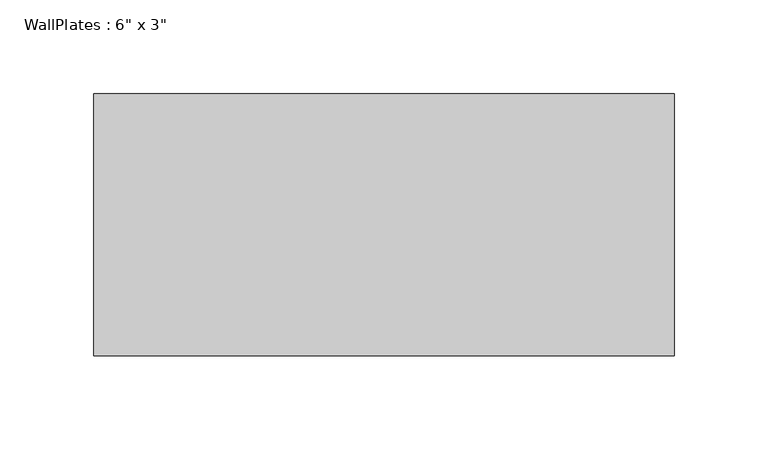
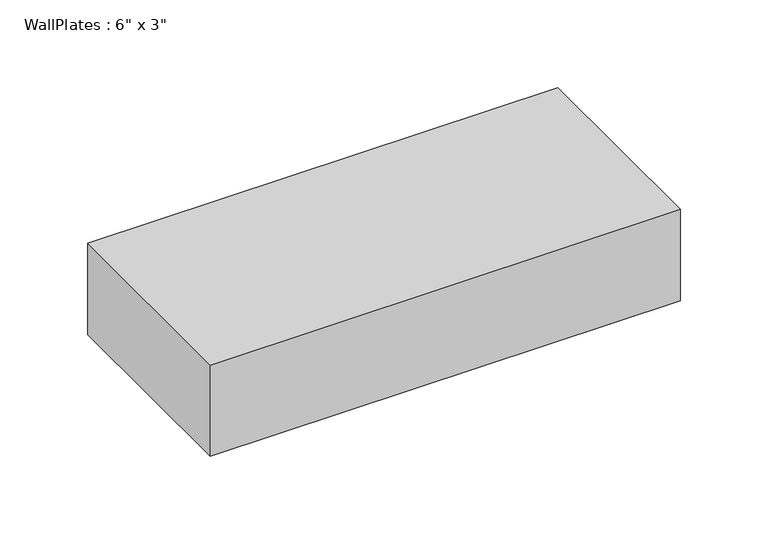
"""IFC4 building model written with IfcOpenShell, lengths in millimetres: beam geometry."""

import ifcopenshell
import ifcopenshell.guid

model = None  # the IFC model being written
_history = None  # IfcOwnerHistory: only IFC2X3 demands one
_inside = {}  # id of a spatial element -> (the spatial element, [elements in it])
_under = {}  # id of a project, library or spatial element -> (it, [spatial elements below it])
_declared = {}  # id of a project -> (the project, [libraries it declares])
_typed = {}  # id of a type object -> (the type object, [elements of that type])
_made_of = {}  # id of a material, layer set ... -> (it, [elements and type objects made of it])


def new_model(schema):
    """Start an empty IFC model of exactly this schema.

    Asked for "IFC4X3", IfcOpenShell would pick the latest addendum, in which some entities
    have other attributes; the version numbers below select the first issue.
    IFC2X3 requires an IfcOwnerHistory on every rooted entity: one is made here for all.
    """
    global model, _history
    if schema == "IFC4X3":
        model = ifcopenshell.file(schema_version=(4, 3, 0, 0))
    else:
        model = ifcopenshell.file(schema=schema)
    _inside.clear()
    _under.clear()
    _declared.clear()
    _typed.clear()
    _made_of.clear()
    _history = None
    if model.schema == "IFC2X3":
        org = make("IfcOrganization", Name="unknown")
        user = make(
            "IfcPersonAndOrganization",
            ThePerson=make("IfcPerson", FamilyName="unknown"),
            TheOrganization=org,
        )
        app = make(
            "IfcApplication",
            ApplicationDeveloper=org,
            Version="unknown",
            ApplicationFullName="unknown",
            ApplicationIdentifier="unknown",
        )
        _history = make(
            "IfcOwnerHistory",
            OwningUser=user,
            OwningApplication=app,
            ChangeAction="ADDED",
            CreationDate=0,
        )
    return model


def make(cls, **values):
    """One entity of the class cls with the attributes given. An attribute that is None is left unset."""
    return model.create_entity(
        cls, **{name: value for name, value in values.items() if value is not None}
    )


def rooted(cls, **values):
    """An entity with a GlobalId (a new one), such as an element, a storey or a relation."""
    return make(cls, GlobalId=ifcopenshell.guid.new(), OwnerHistory=_history, **values)


def si_unit(unit_type, name, prefix=None):
    """IfcSIUnit, for example si_unit("LENGTHUNIT", "METRE", prefix="MILLI")."""
    return make("IfcSIUnit", UnitType=unit_type, Prefix=prefix, Name=name)


def assignment(units):
    """IfcUnitAssignment: the units of a project."""
    return None if units is None else make("IfcUnitAssignment", Units=units)


def point(xyz):
    """IfcCartesianPoint."""
    return None if xyz is None else make("IfcCartesianPoint", Coordinates=xyz)


def direction(xyz):
    """IfcDirection."""
    return None if xyz is None else make("IfcDirection", DirectionRatios=xyz)


def frame(location, z_axis=None, x_axis=None):
    """IfcAxis2Placement3D, a coordinate frame: its origin and axes. An axis left out is left unset."""
    return make(
        "IfcAxis2Placement3D",
        Location=point(location),
        Axis=direction(z_axis),
        RefDirection=direction(x_axis),
    )


def origin():
    """The frame at (0, 0, 0) with its axes left unset."""
    return frame((0.0, 0.0, 0.0))


def place(relative_to, where):
    """IfcLocalPlacement: puts the frame where relative to a parent placement (None: the world)."""
    return make(
        "IfcLocalPlacement", PlacementRelTo=relative_to, RelativePlacement=where
    )


def context(
    kind, dimensions, precision=None, world=None, true_north=None, identifier=None
):
    """IfcGeometricRepresentationContext, for example the 3D "Model" context."""
    return make(
        "IfcGeometricRepresentationContext",
        ContextIdentifier=identifier,
        ContextType=kind,
        CoordinateSpaceDimension=dimensions,
        Precision=precision,
        WorldCoordinateSystem=world,
        TrueNorth=true_north,
    )


def project(units=None, contexts=None):
    """IfcProject with its units and contexts."""
    return rooted(
        "IfcProject",
        Name="project",
        RepresentationContexts=contexts,
        UnitsInContext=assignment(units),
    )


def spatial(cls, under=None, at=None, **own):
    """A site, building, storey or space (cls), placed at a placement, below another one or the project."""
    s = rooted(cls, ObjectPlacement=at, **own)
    if under is not None:
        _under.setdefault(under.id(), (under, []))[1].append(s)
    return s


def polyline(points):
    """IfcPolyline through the points."""
    return make("IfcPolyline", Points=[point(p) for p in points])


def outline(outer, holes=None, kind="AREA"):
    """IfcArbitraryClosedProfileDef: a profile drawn as a closed curve; with holes, ...WithVoids."""
    if holes is None:
        return make("IfcArbitraryClosedProfileDef", ProfileType=kind, OuterCurve=outer)
    return make(
        "IfcArbitraryProfileDefWithVoids",
        ProfileType=kind,
        OuterCurve=outer,
        InnerCurves=holes,
    )


def extrude(swept, where, along, depth):
    """IfcExtrudedAreaSolid: the profile swept, set in the frame where, extruded along a direction by depth."""
    return make(
        "IfcExtrudedAreaSolid",
        SweptArea=swept,
        Position=where,
        ExtrudedDirection=direction(along),
        Depth=depth,
    )


def shape(context_of_items, identifier, shape_type, items):
    """IfcShapeRepresentation: the items that make up one representation, for example the "Body"."""
    return make(
        "IfcShapeRepresentation",
        ContextOfItems=context_of_items,
        RepresentationIdentifier=identifier,
        RepresentationType=shape_type,
        Items=items,
    )


def source(mapping_origin, context_of_items, identifier, shape_type, items):
    """IfcRepresentationMap: a shape defined once, which mapped items show again and again."""
    return make(
        "IfcRepresentationMap",
        MappingOrigin=mapping_origin,
        MappedRepresentation=shape(context_of_items, identifier, shape_type, items),
    )


def transform(
    local_origin,
    x_axis=None,
    y_axis=None,
    z_axis=None,
    scale=None,
    scale2=None,
    scale3=None,
    uniform=True,
):
    """IfcCartesianTransformationOperator3D, or its non-uniform kind. x_axis, y_axis, z_axis: its Axis1, 2, 3."""
    if uniform:
        return make(
            "IfcCartesianTransformationOperator3D",
            Axis1=direction(x_axis),
            Axis2=direction(y_axis),
            LocalOrigin=point(local_origin),
            Scale=scale,
            Axis3=direction(z_axis),
        )
    return make(
        "IfcCartesianTransformationOperator3DnonUniform",
        Axis1=direction(x_axis),
        Axis2=direction(y_axis),
        LocalOrigin=point(local_origin),
        Scale=scale,
        Axis3=direction(z_axis),
        Scale2=scale2,
        Scale3=scale3,
    )


def mapped(mapping_source, mapping_target):
    """IfcMappedItem: shows the shape of a source again, moved by a transform."""
    return make(
        "IfcMappedItem", MappingSource=mapping_source, MappingTarget=mapping_target
    )


def made_of(thing, what):
    """Note that an element or type object is made of a material, layer set ...; save() writes the relation."""
    if what is not None:
        _made_of.setdefault(what.id(), (what, []))[1].append(thing)
    return thing


def element(
    cls,
    number,
    at=None,
    inside=None,
    cuts=None,
    type_object=None,
    material=None,
    context=None,
    identifier="Body",
    shape_type=None,
    held_by="IfcProductDefinitionShape",
    body=None,
    shapes=None,
    **own,
):
    """One element of the class cls, such as IfcWall. Its Tag is "e" and its number.

    at: its placement. inside: the storey or other place that contains it. cuts: it is an
    opening in that element (IfcRelVoidsElement). A single representation is given by context,
    identifier, shape_type and body (its items); several are given by shapes. held_by: the class
    of the entity that holds the representations. save() writes the other relations.
    """
    e = rooted(cls, Tag="e%d" % number, ObjectPlacement=at, **own)
    if body is not None:
        shapes = [shape(context, identifier, shape_type, body)]
    if shapes is not None:
        e.Representation = make(held_by, Representations=shapes)
    if inside is not None:
        _inside.setdefault(inside.id(), (inside, []))[1].append(e)
    if cuts is not None:
        rooted(
            "IfcRelVoidsElement", RelatingBuildingElement=cuts, RelatedOpeningElement=e
        )
    if type_object is not None:
        _typed.setdefault(type_object.id(), (type_object, []))[1].append(e)
    return made_of(e, material)


def aggregate(whole, parts):
    """IfcRelAggregates: a whole, such as a stair, and the parts it consists of."""
    return rooted("IfcRelAggregates", RelatingObject=whole, RelatedObjects=parts)


def save(model, path):
    """Write the relations noted so far, then the file.

    IfcRelAggregates (storeys below a building ...), IfcRelContainedInSpatialStructure (elements
    in a storey), IfcRelDefinesByType, IfcRelAssociatesMaterial and IfcRelDeclares: one each for
    every whole, place, type object, material and project.
    """
    for whole, parts in _under.values():
        aggregate(whole, parts)
    for where, things in _inside.values():
        rooted(
            "IfcRelContainedInSpatialStructure",
            RelatedElements=things,
            RelatingStructure=where,
        )
    for kind, things in _typed.values():
        rooted("IfcRelDefinesByType", RelatedObjects=things, RelatingType=kind)
    for what, things in _made_of.values():
        rooted("IfcRelAssociatesMaterial", RelatedObjects=things, RelatingMaterial=what)
    for by, libraries in _declared.values():
        rooted("IfcRelDeclares", RelatingContext=by, RelatedDefinitions=libraries)
    model.write(path)


def beam_c39f55a4(model_context):
    return source(origin(), model_context, "Body", "SweptSolid", [
        extrude(outline(polyline([(-154.7583981, -69.85), (-154.7583981, 69.85), (154.7583981, 69.85), (154.7583981, -69.85), (-154.7583981, -69.85)])), frame((0.0, 0.0, -31.75), z_axis=(0.0, 0.0, 1.0), x_axis=(1.0, 0.0, 0.0)), (0.0, 0.0, 1.0), 63.5),
    ])


if __name__ == "__main__":
    model = new_model("IFC4")
    model_context = context("Model", 3, world=origin())
    ifc_project = project(units=[si_unit("LENGTHUNIT", "METRE", prefix="MILLI")], contexts=[model_context])
    site = spatial("IfcSite", under=ifc_project)
    building = spatial("IfcBuilding", under=site)
    placement = place(None, origin())
    beam_shape = beam_c39f55a4(model_context)
    element("IfcBeam", 1, ObjectType="WallPlates : 6\" x 3\"", at=placement, inside=building, context=model_context, shape_type="MappedRepresentation", body=[
        mapped(beam_shape, transform((0.0, 0.0, 0.0), x_axis=(1.0, 0.0, 0.0), y_axis=(0.0, 1.0, 0.0), z_axis=(0.0, 0.0, 1.0))),
    ])
    save(model, "model.ifc")
